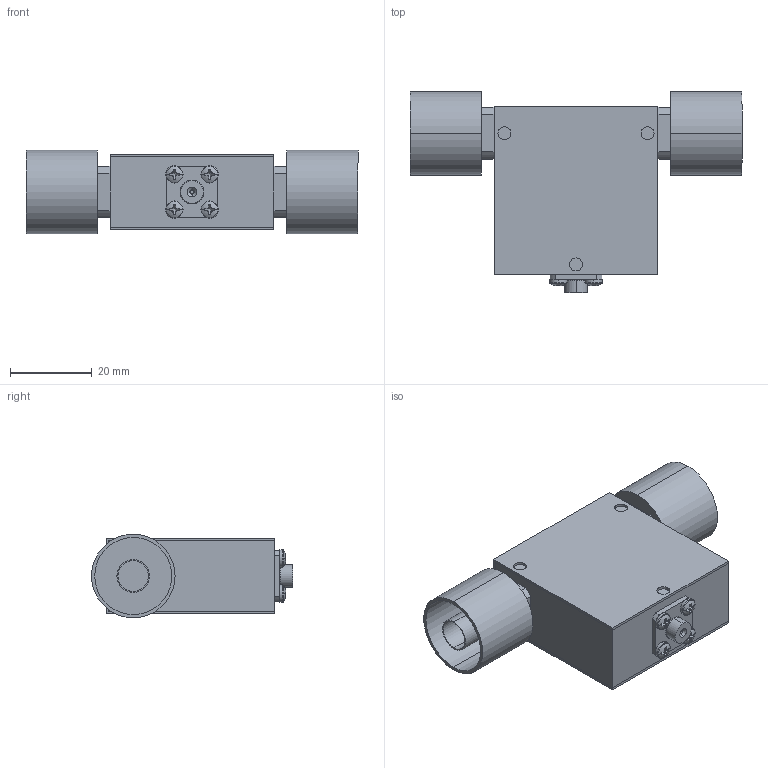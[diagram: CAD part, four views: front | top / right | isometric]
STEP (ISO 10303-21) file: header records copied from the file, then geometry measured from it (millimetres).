
FILE_DESCRIPTION (( 'STEP AP214' ), '1' );
FILE_NAME ('Package 7 Iso MM Type-N.step', '2021-12-01T21:01:58', ( '' ), ( '' ), 'SwSTEP 2.0', 'SolidWorks 2016', '' );
FILE_SCHEMA (( 'AUTOMOTIVE_DESIGN' ));
Length unit declared in the file: inch
Products named in the file (6): pan cross head_ai_CR-PHMS 0.086-56x0.125x0.125-N; Package 7 Iso MM Type-N; Package 7; Package Size 7; 030013-1A; Delta Type N Male, 0.5in flange
Assembly tree (9 placements, depth 2):
  Package 7 Iso MM Type-N
    Package Size 7
    Package 7
    030013-1A
    pan cross head_ai_CR-PHMS 0.086-56x0.125x0.125-N  x4
    Delta Type N Male, 0.5in flange  x2
Bounding box: 81.28 x 49.21 x 20.45 mm (x, y, z)
Volume: 34897.9 mm3; surface area: 22155.1 mm2
Topology: 9 solids, 9 shells, 220 faces, 496 edges, 316 vertices
Faces by surface type: plane 112, cylinder 86, torus 10, sphere 8, cone 4
Entity records: 3746 total; most frequent: DIRECTION 672, CARTESIAN_POINT 581, ORIENTED_EDGE 548, EDGE_CURVE 274, AXIS2_PLACEMENT_3D 269, VERTEX_POINT 178, EDGE_LOOP 150, CIRCLE 140
